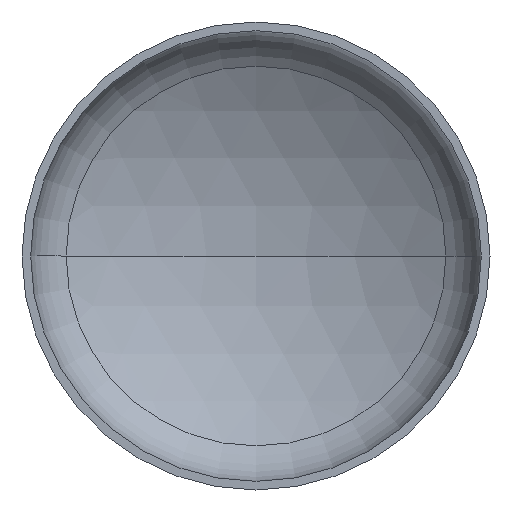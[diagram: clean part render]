
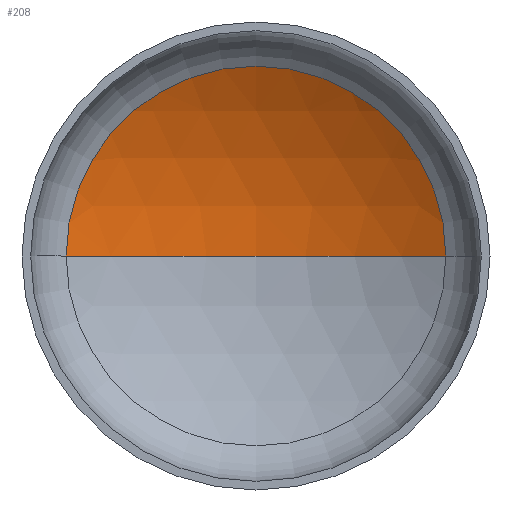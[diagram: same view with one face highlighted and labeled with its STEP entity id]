
A CAD part, front view. The second image highlights one B-rep face of the part: STEP entity #208.
In plain terms, the highlighted spherical face has radius 4400 mm.
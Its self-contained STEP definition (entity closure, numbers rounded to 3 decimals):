
#1 = CIRCLE ( 'NONE', #287, 2231.561 ) ;
#11 = FACE_OUTER_BOUND ( 'NONE', #130, .T. ) ;
#21 = VERTEX_POINT ( 'NONE', #285 ) ;
#29 = EDGE_CURVE ( 'NONE', #78, #21, #325, .T. ) ;
#60 = EDGE_CURVE ( 'NONE', #78, #126, #189, .T. ) ;
#78 = VERTEX_POINT ( 'NONE', #296 ) ;
#83 = AXIS2_PLACEMENT_3D ( 'NONE', #174, #197, #334 ) ;
#96 = ORIENTED_EDGE ( 'NONE', *, *, #99, .T. ) ;
#99 = EDGE_CURVE ( 'NONE', #126, #21, #1, .T. ) ;
#108 = ORIENTED_EDGE ( 'NONE', *, *, #29, .F. ) ;
#119 = ORIENTED_EDGE ( 'NONE', *, *, #60, .T. ) ;
#126 = VERTEX_POINT ( 'NONE', #193 ) ;
#130 = EDGE_LOOP ( 'NONE', ( #108, #119, #96 ) ) ;
#174 = CARTESIAN_POINT ( 'NONE',  ( 0., -2988.856, 0. ) ) ;
#189 = CIRCLE ( 'NONE', #255, 4400. ) ;
#193 = CARTESIAN_POINT ( 'NONE',  ( 2231.561, 803.258, 0. ) ) ;
#194 = CARTESIAN_POINT ( 'NONE',  ( 0., 803.258, 0. ) ) ;
#197 = DIRECTION ( 'NONE',  ( 0., 0., -1. ) ) ;
#208 = ADVANCED_FACE ( 'NONE', ( #11 ), #289, .F. ) ;
#237 = AXIS2_PLACEMENT_3D ( 'NONE', #243, #242, #238 ) ;
#238 = DIRECTION ( 'NONE',  ( 1., 0., 0. ) ) ;
#242 = DIRECTION ( 'NONE',  ( 0., 0., 1. ) ) ;
#243 = CARTESIAN_POINT ( 'NONE',  ( 0., -2988.856, 0. ) ) ;
#255 = AXIS2_PLACEMENT_3D ( 'NONE', #352, #350, #348 ) ;
#285 = CARTESIAN_POINT ( 'NONE',  ( -2231.561, 803.258, 0. ) ) ;
#287 = AXIS2_PLACEMENT_3D ( 'NONE', #194, #357, #356 ) ;
#289 = SPHERICAL_SURFACE ( 'NONE', #83, 4400. ) ;
#296 = CARTESIAN_POINT ( 'NONE',  ( 0., 1411.144, 0. ) ) ;
#325 = CIRCLE ( 'NONE', #237, 4400. ) ;
#334 = DIRECTION ( 'NONE',  ( -1., 0., 0. ) ) ;
#348 = DIRECTION ( 'NONE',  ( -1., 0., 0. ) ) ;
#350 = DIRECTION ( 'NONE',  ( 0., 0., -1. ) ) ;
#352 = CARTESIAN_POINT ( 'NONE',  ( 0., -2988.856, 0. ) ) ;
#356 = DIRECTION ( 'NONE',  ( 1., 0., 0. ) ) ;
#357 = DIRECTION ( 'NONE',  ( 0., -1., 0. ) ) ;
